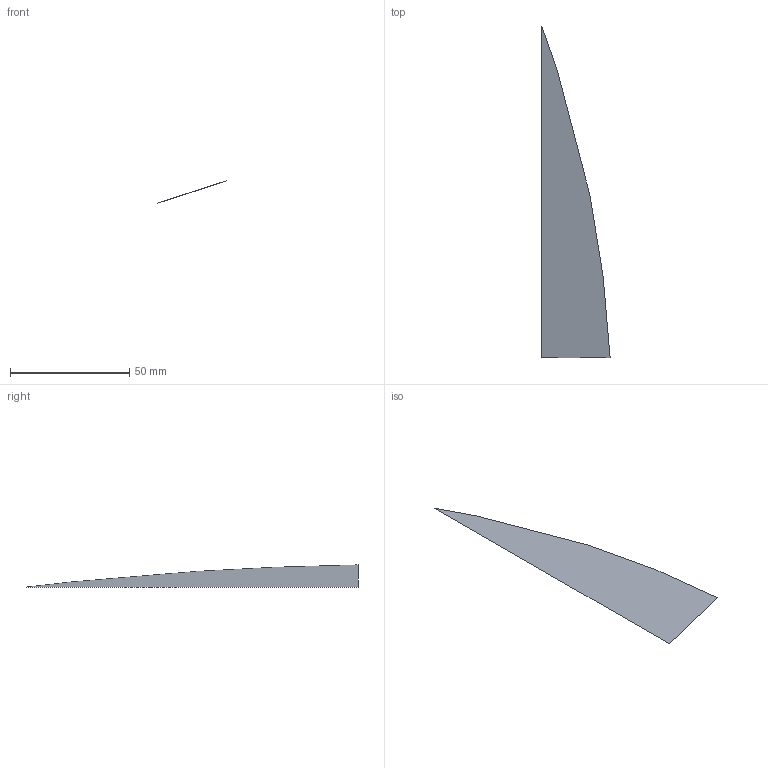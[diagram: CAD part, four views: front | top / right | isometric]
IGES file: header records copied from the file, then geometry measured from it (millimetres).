
Global section: file name: face-fail.igs; native system: ANSA9.x; preprocessor: 1.2; author: cky; date: **0103.144123; units: millimetre
Bounding box: 28.62 x 139.28 x 9.29 mm (x, y, z)
Surface area: 2642.3 mm2 (no closed solid volume)
Topology: 0 solids, 0 shells, 1 faces, 5 edges, 5 vertices
Faces by surface type: bspline 1
